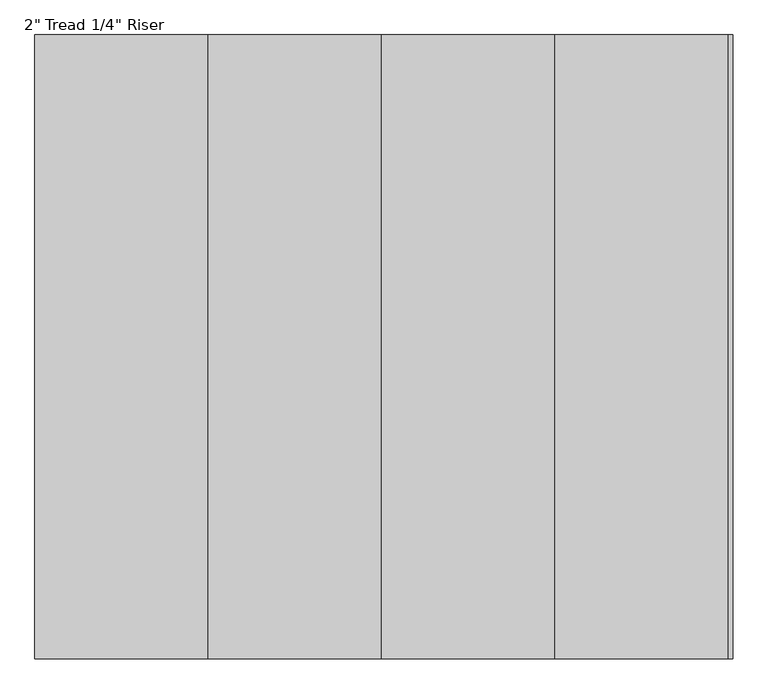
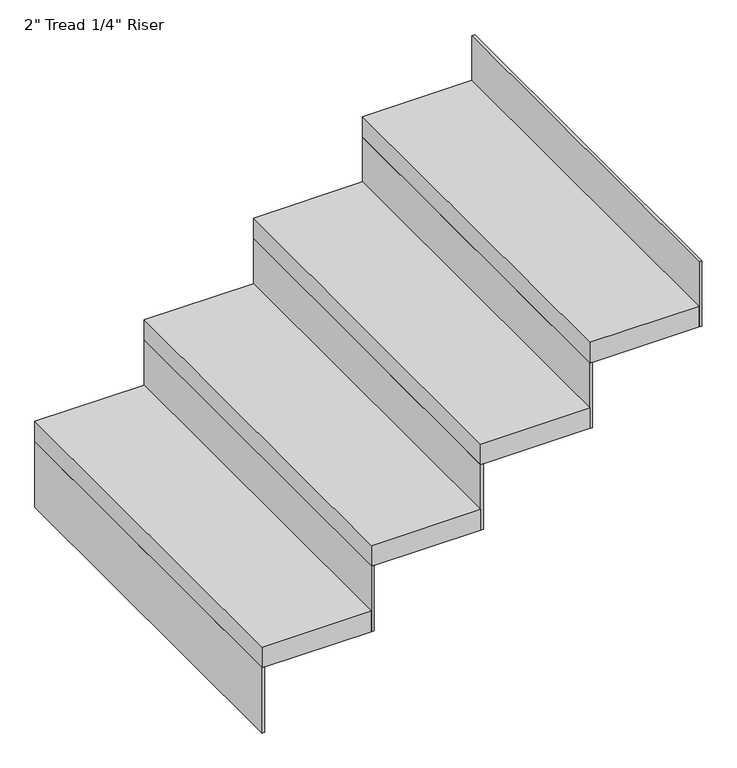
"""IFC4 building model written with IfcOpenShell, lengths in millimetres: stair flight geometry."""

from ifc_helpers import new_model, si_unit, frame, origin, place, context, project, spatial, polyline, outline, extrude, source, transform, mapped, element, save


def stair_flight_5b1c3e2d(model_context):
    return source(origin(), model_context, "Body", "SweptSolid", [
        extrude(outline(polyline([(164361.2182615, -35451.4428514), (164354.8682615, -35451.4428514), (164354.8682615, -34537.0428514), (164361.2182615, -34537.0428514), (164361.2182615, -35451.4428514)])), frame((0.0, 0.0, 2195.0947368), z_axis=(0.0, 0.0, 1.0), x_axis=(1.0, 0.0, 0.0)), (0.0, 0.0, 1.0), 160.4210526),
        extrude(outline(polyline([(164608.8682615, -34537.0428514), (164608.8682615, -35451.4428514), (164354.8682615, -35451.4428514), (164354.8682615, -34537.0428514), (164608.8682615, -34537.0428514)])), frame((0.0, 0.0, 2355.5157895), z_axis=(0.0, 0.0, 1.0), x_axis=(1.0, 0.0, 0.0)), (0.0, 0.0, 1.0), 50.8),
        extrude(outline(polyline([(164615.2182615, -35451.4428514), (164608.8682615, -35451.4428514), (164608.8682615, -34537.0428514), (164615.2182615, -34537.0428514), (164615.2182615, -35451.4428514)])), frame((0.0, 0.0, 2355.5157895), z_axis=(0.0, 0.0, 1.0), x_axis=(1.0, 0.0, 0.0)), (0.0, 0.0, 1.0), 160.4210526),
        extrude(outline(polyline([(164862.8682615, -34537.0428514), (164862.8682615, -35451.4428514), (164608.8682615, -35451.4428514), (164608.8682615, -34537.0428514), (164862.8682615, -34537.0428514)])), frame((0.0, 0.0, 2515.9368421), z_axis=(0.0, 0.0, 1.0), x_axis=(1.0, 0.0, 0.0)), (0.0, 0.0, 1.0), 50.8),
        extrude(outline(polyline([(164869.2182615, -35451.4428514), (164862.8682615, -35451.4428514), (164862.8682615, -34537.0428514), (164869.2182615, -34537.0428514), (164869.2182615, -35451.4428514)])), frame((0.0, 0.0, 2515.9368421), z_axis=(0.0, 0.0, 1.0), x_axis=(1.0, 0.0, 0.0)), (0.0, 0.0, 1.0), 160.4210526),
        extrude(outline(polyline([(165116.8682615, -34537.0428514), (165116.8682615, -35451.4428514), (164862.8682615, -35451.4428514), (164862.8682615, -34537.0428514), (165116.8682615, -34537.0428514)])), frame((0.0, 0.0, 2676.3578947), z_axis=(0.0, 0.0, 1.0), x_axis=(1.0, 0.0, 0.0)), (0.0, 0.0, 1.0), 50.8),
        extrude(outline(polyline([(165123.2182615, -35451.4428514), (165116.8682615, -35451.4428514), (165116.8682615, -34537.0428514), (165123.2182615, -34537.0428514), (165123.2182615, -35451.4428514)])), frame((0.0, 0.0, 2676.3578947), z_axis=(0.0, 0.0, 1.0), x_axis=(1.0, 0.0, 0.0)), (0.0, 0.0, 1.0), 160.4210526),
        extrude(outline(polyline([(165377.2182615, -35451.4428514), (165370.8682615, -35451.4428514), (165370.8682615, -34537.0428514), (165377.2182615, -34537.0428514), (165377.2182615, -35451.4428514)])), frame((0.0, 0.0, 2836.7789474), z_axis=(0.0, 0.0, 1.0), x_axis=(1.0, 0.0, 0.0)), (0.0, 0.0, 1.0), 160.4210526),
        extrude(outline(polyline([(165370.8682615, -34537.0428514), (165370.8682615, -35451.4428514), (165116.8682615, -35451.4428514), (165116.8682615, -34537.0428514), (165370.8682615, -34537.0428514)])), frame((0.0, 0.0, 2836.7789474), z_axis=(0.0, 0.0, 1.0), x_axis=(1.0, 0.0, 0.0)), (0.0, 0.0, 1.0), 50.8),
    ])


if __name__ == "__main__":
    model = new_model("IFC4")
    model_context = context("Model", 3, world=origin())
    ifc_project = project(units=[si_unit("LENGTHUNIT", "METRE", prefix="MILLI")], contexts=[model_context])
    site = spatial("IfcSite", under=ifc_project)
    building = spatial("IfcBuilding", under=site)
    placement = place(None, origin())
    stair_flight_shape = stair_flight_5b1c3e2d(model_context)
    element("IfcStairFlight", 1, ObjectType="2\" Tread 1/4\" Riser", at=placement, inside=building, context=model_context, shape_type="MappedRepresentation", body=[
        mapped(stair_flight_shape, transform((0.0, 0.0, 0.0), x_axis=(1.0, 0.0, 0.0), y_axis=(0.0, 1.0, 0.0), z_axis=(0.0, 0.0, 1.0))),
    ])
    save(model, "model.ifc")
